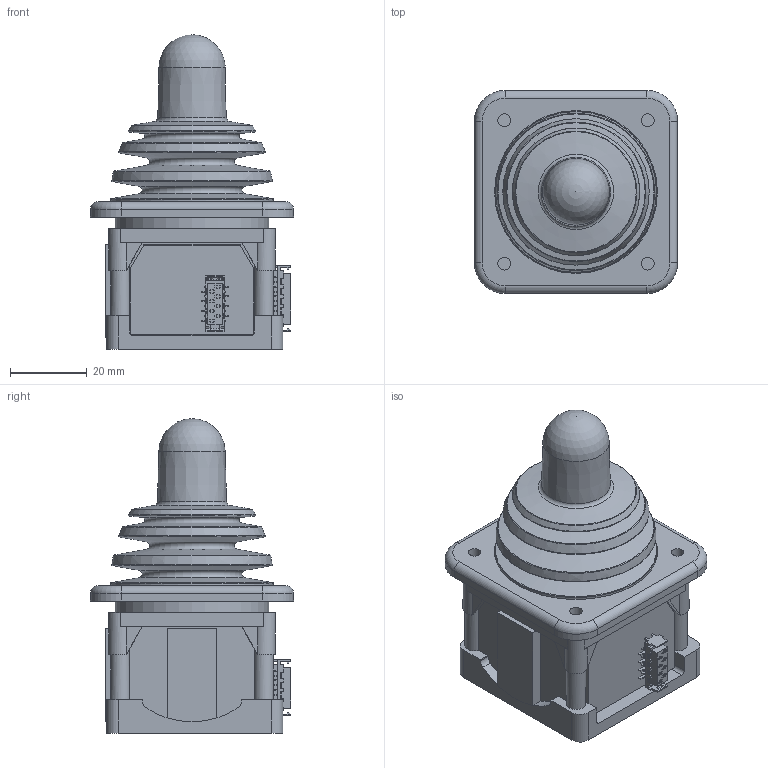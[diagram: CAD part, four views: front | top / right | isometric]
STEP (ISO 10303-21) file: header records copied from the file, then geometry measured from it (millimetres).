
FILE_DESCRIPTION(/* description */ (''),/* implementation_level */ '2;1');
FILE_NAME(/* name */ 'S:\Entwicklung\01_CAD-Daten\01_AIDATA-GT\1_1_Joysticks\SK197\Zusammenstellungen\197-0126_vereinfacht.stp',/* time_stamp */ '2024-12-13T11:24:54+01:00',/* author */ ('fdm'),/* organization */ (''),/* preprocessor_version */ 'ST-DEVELOPER v18.1',/* originating_system */ 'Autodesk Inventor 2021',/* authorisation */ '');
FILE_SCHEMA (('AUTOMOTIVE_DESIGN { 1 0 10303 214 3 1 1 }'));
Length unit declared in the file: millimetre
Products named in the file (1): 197-0128_vereinfacht
Bounding box: 53 x 53 x 82.1 mm (x, y, z)
Volume: 94434.1 mm3; surface area: 24958.5 mm2
Topology: 5 solids, 5 shells, 1277 faces, 3774 edges, 2510 vertices
Faces by surface type: plane 987, cylinder 263, torus 15, cone 8, bspline 3, sphere 1
Full cylindrical faces by diameter (mm): 3.3 x4, 40 x1, 42.5 x1
Entity records: 42501 total; most frequent: CARTESIAN_POINT 7639, ORIENTED_EDGE 7546, DIRECTION 6931, EDGE_CURVE 3773, LINE 3165, VECTOR 3165, VERTEX_POINT 2510, AXIS2_PLACEMENT_3D 1883
